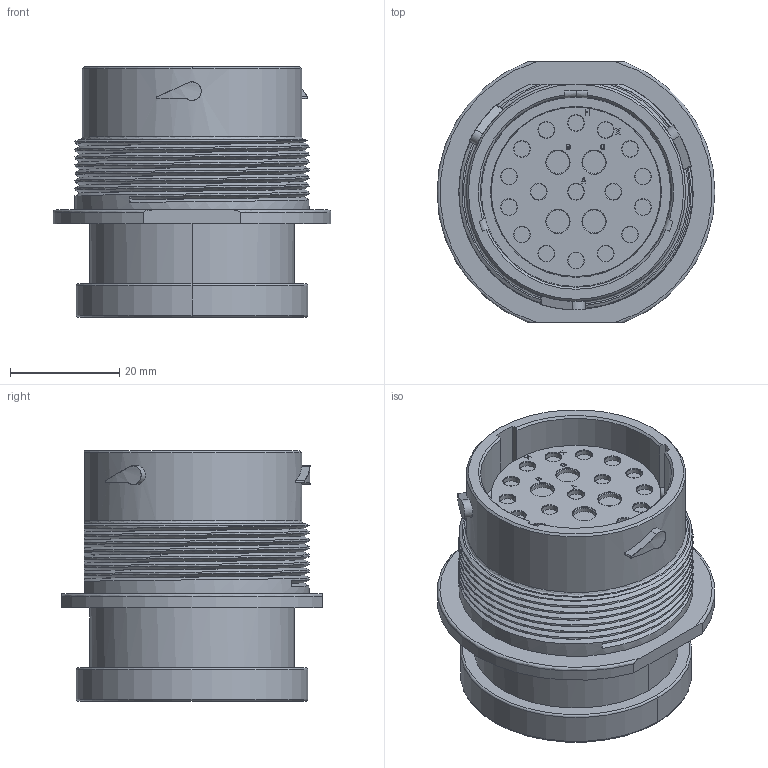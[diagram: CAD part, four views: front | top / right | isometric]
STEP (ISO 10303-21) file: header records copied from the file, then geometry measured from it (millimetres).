
FILE_DESCRIPTION((''),'2;1');
FILE_NAME('C-HDP24-24-21SE-L017','2013-04-17T',('workeradm'),('Tyco Electronics Ltd.'),'PRO/ENGINEER BY PARAMETRIC TECHNOLOGY CORPORATION, 2011490','PRO/ENGINEER BY PARAMETRIC TECHNOLOGY CORPORATION, 2011490','');
FILE_SCHEMA(('AUTOMOTIVE_DESIGN { 1 0 10303 214 1 1 1 1 }'));
Length unit declared in the file: millimetre
Products named in the file (1): C-HDP24-24-21SE-L017
Bounding box: 50.8 x 47.62 x 45.77 mm (x, y, z)
Volume: 48972 mm3; surface area: 15674.5 mm2
Topology: 1 solids, 1 shells, 571 faces, 1309 edges, 823 vertices
Faces by surface type: plane 218, cylinder 209, bspline 73, cone 50, torus 21
Entity records: 37434 total; most frequent: CARTESIAN_POINT 24258, DIRECTION 2693, ORIENTED_EDGE 2618, EDGE_CURVE 1309, AXIS2_PLACEMENT_3D 1011, VERTEX_POINT 823, VECTOR 671, LINE 671
